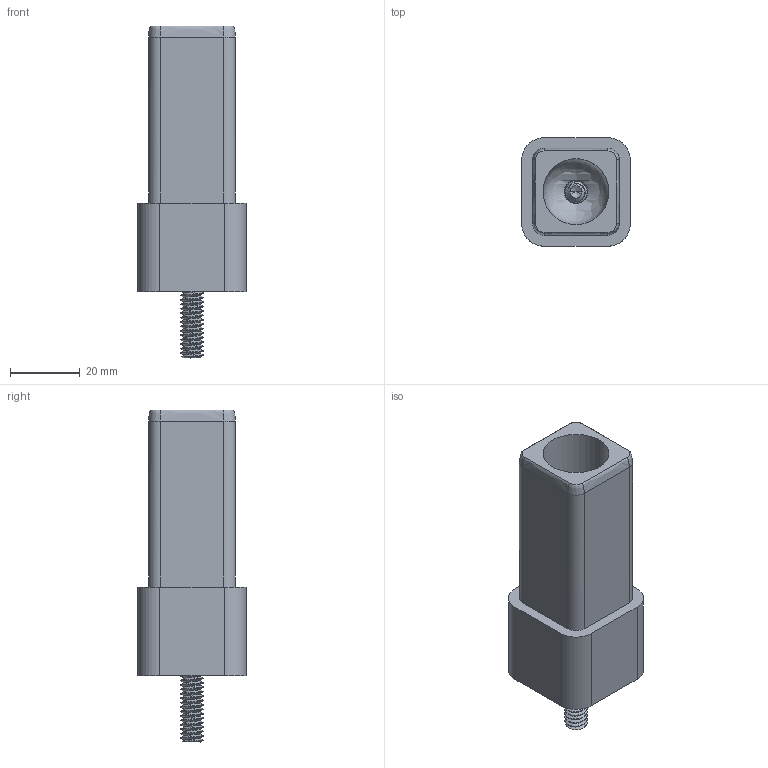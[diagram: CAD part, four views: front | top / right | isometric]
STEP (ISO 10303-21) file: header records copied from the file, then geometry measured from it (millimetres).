
FILE_DESCRIPTION (( 'STEP AP203' ), '1' );
FILE_NAME ('FDPCK-MCS1-END-STUD-L.STEP', '2019-09-11T19:14:02', ( 'ydmin' ), ( '' ), 'SwSTEP 2.0', 'SolidWorks 2017', '' );
FILE_SCHEMA (( 'CONFIG_CONTROL_DESIGN' ));
Length unit declared in the file: inch
Products named in the file (1): FDPCK-MCS1-END-STUD-L
Bounding box: 31.11 x 31.11 x 95.25 mm (x, y, z)
Volume: 41446.8 mm3; surface area: 14680 mm2
Topology: 3 solids, 3 shells, 132 faces, 349 edges, 222 vertices
Faces by surface type: cylinder 70, plane 26, bspline 20, cone 16
Entity records: 12533 total; most frequent: CARTESIAN_POINT 9709, ORIENTED_EDGE 690, DIRECTION 454, EDGE_CURVE 345, VERTEX_POINT 222, AXIS2_PLACEMENT_3D 157, VECTOR 140, LINE 140
